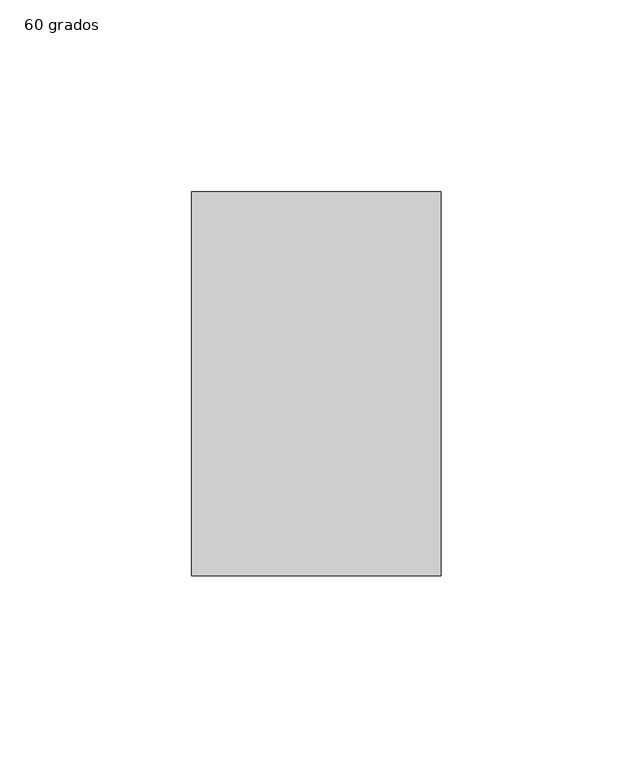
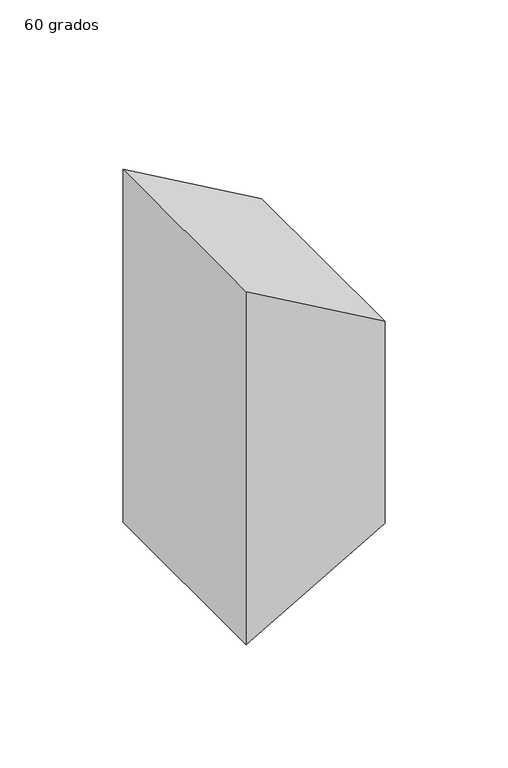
"""IFC4 building model written with IfcOpenShell, lengths in millimetres: duct fitting geometry, M_Transición rectangular - Ángulo : 60 grados."""

from ifc_helpers import new_model, si_unit, frame, origin, place, context, project, spatial, polyline, outline, extrude, source, transform, mapped, element, save


def duct_fitting_60_grados_dbbc778e(model_context):
    return source(origin(), model_context, "Body", "SweptSolid", [
        extrude(outline(polyline([(87.5, 0.0), (-87.5, 0.0), (-50.0, 64.9519053), (50.0, 64.9519053), (87.5, 0.0)])), frame((0.0, -50.0, 0.0), z_axis=(0.0, 1.0, 0.0), x_axis=(0.0, 0.0, 1.0)), (0.0, 0.0, 1.0), 100.0),
    ])


if __name__ == "__main__":
    model = new_model("IFC4")
    model_context = context("Model", 3, world=origin())
    ifc_project = project(units=[si_unit("LENGTHUNIT", "METRE", prefix="MILLI")], contexts=[model_context])
    site = spatial("IfcSite", under=ifc_project)
    building = spatial("IfcBuilding", under=site)
    placement = place(None, origin())
    duct_fitting_60_grados_shape = duct_fitting_60_grados_dbbc778e(model_context)
    element("IfcDuctFitting", 1, ObjectType="M_Transición rectangular - Ángulo : 60 grados", at=placement, inside=building, context=model_context, shape_type="MappedRepresentation", body=[
        mapped(duct_fitting_60_grados_shape, transform((0.0, 0.0, 0.0), x_axis=(1.0, 0.0, 0.0), y_axis=(0.0, 1.0, 0.0), z_axis=(0.0, 0.0, 1.0))),
    ])
    save(model, "model.ifc")
